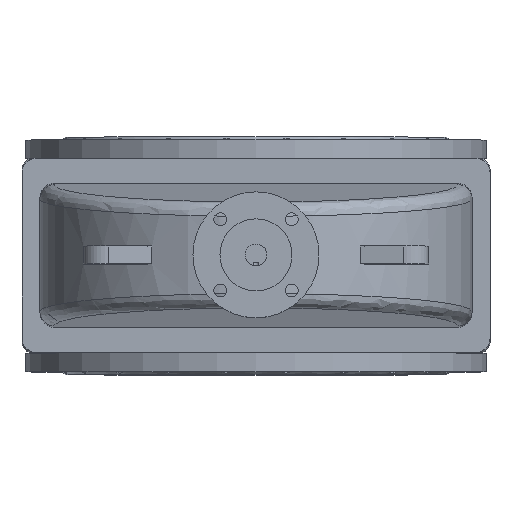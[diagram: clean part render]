
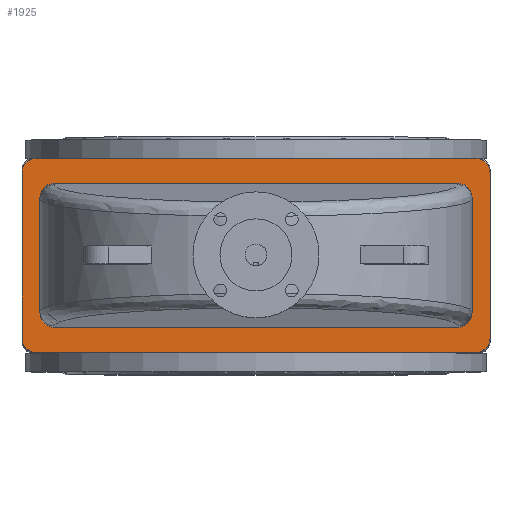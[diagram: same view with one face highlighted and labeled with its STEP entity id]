
A CAD part, top view. The second image highlights one B-rep face of the part: STEP entity #1925.
In plain terms, the highlighted planar face has unit normal (0, 0, 1).
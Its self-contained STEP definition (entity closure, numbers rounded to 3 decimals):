
#1925=ADVANCED_FACE('',(#5581,#5583),#5585,.T.);
#5581=FACE_BOUND('',#5582,.T.);
#5582=EDGE_LOOP('',(#7781,#7782,#7783,#7784,#7785,#7786,#7787,#7788));
#5583=FACE_BOUND('',#5584,.T.);
#5584=EDGE_LOOP('',(#7789,#7790,#7791,#7792,#7793,#7794,#7795,#7796));
#5585=PLANE('',#5586);
#5586=AXIS2_PLACEMENT_3D('',#5587,#5588,#5589);
#5587=CARTESIAN_POINT('',(0.,0.,516.));
#5588=DIRECTION('',(0.,-0.,1.));
#5589=DIRECTION('',(0.,1.,0.));
#7781=ORIENTED_EDGE('',*,*,#8561,.F.);
#7782=ORIENTED_EDGE('',*,*,#8574,.T.);
#7783=ORIENTED_EDGE('',*,*,#8573,.F.);
#7784=ORIENTED_EDGE('',*,*,#8571,.T.);
#7785=ORIENTED_EDGE('',*,*,#8569,.F.);
#7786=ORIENTED_EDGE('',*,*,#8567,.T.);
#7787=ORIENTED_EDGE('',*,*,#8565,.F.);
#7788=ORIENTED_EDGE('',*,*,#8562,.T.);
#7789=ORIENTED_EDGE('',*,*,#8575,.F.);
#7790=ORIENTED_EDGE('',*,*,#8576,.F.);
#7791=ORIENTED_EDGE('',*,*,#8577,.F.);
#7792=ORIENTED_EDGE('',*,*,#8578,.F.);
#7793=ORIENTED_EDGE('',*,*,#8579,.F.);
#7794=ORIENTED_EDGE('',*,*,#8580,.F.);
#7795=ORIENTED_EDGE('',*,*,#8581,.F.);
#7796=ORIENTED_EDGE('',*,*,#8582,.F.);
#8561=EDGE_CURVE('',#9679,#9677,#9681,.F.);
#8562=EDGE_CURVE('',#9682,#9677,#9683,.T.);
#8565=EDGE_CURVE('',#9682,#9685,#9687,.F.);
#8567=EDGE_CURVE('',#9688,#9685,#9690,.T.);
#8569=EDGE_CURVE('',#9688,#9691,#9693,.F.);
#8571=EDGE_CURVE('',#9694,#9691,#9696,.T.);
#8573=EDGE_CURVE('',#9694,#9697,#9699,.F.);
#8574=EDGE_CURVE('',#9679,#9697,#9700,.T.);
#8575=EDGE_CURVE('',#9701,#9702,#9703,.F.);
#8576=EDGE_CURVE('',#9704,#9701,#9705,.T.);
#8577=EDGE_CURVE('',#9706,#9704,#9707,.T.);
#8578=EDGE_CURVE('',#9708,#9706,#9709,.T.);
#8579=EDGE_CURVE('',#9710,#9708,#9711,.F.);
#8580=EDGE_CURVE('',#9712,#9710,#9713,.T.);
#8581=EDGE_CURVE('',#9714,#9712,#9715,.T.);
#8582=EDGE_CURVE('',#9702,#9714,#9716,.T.);
#9677=VERTEX_POINT('',#15903);
#9679=VERTEX_POINT('',#15907);
#9681=CIRCLE('',#15911,20.);
#9682=VERTEX_POINT('',#15915);
#9683=LINE('',#15916,#15917);
#9685=VERTEX_POINT('',#15922);
#9687=CIRCLE('',#15926,20.);
#9688=VERTEX_POINT('',#15930);
#9690=LINE('',#15934,#15935);
#9691=VERTEX_POINT('',#15937);
#9693=CIRCLE('',#15941,20.);
#9694=VERTEX_POINT('',#15945);
#9696=LINE('',#15949,#15950);
#9697=VERTEX_POINT('',#15952);
#9699=CIRCLE('',#15956,20.);
#9700=LINE('',#15960,#15961);
#9701=VERTEX_POINT('',#15963);
#9702=VERTEX_POINT('',#15964);
#9703=(BOUNDED_CURVE()B_SPLINE_CURVE(3,
(#15965,#15966,#15967,#15968),
.UNSPECIFIED.,.F.,.F.)B_SPLINE_CURVE_WITH_KNOTS((4,4),
(0.,1.),
.UNSPECIFIED.)CURVE()GEOMETRIC_REPRESENTATION_ITEM()RATIONAL_B_SPLINE_CURVE((1.,
0.805,0.805,1.))REPRESENTATION_ITEM(''));
#9704=VERTEX_POINT('',#15969);
#9705=LINE('',#15970,#15971);
#9706=VERTEX_POINT('',#15973);
#9707=(BOUNDED_CURVE()B_SPLINE_CURVE(3,
(#15974,#15975,#15976,#15977),
.UNSPECIFIED.,.F.,.F.)B_SPLINE_CURVE_WITH_KNOTS((4,4),
(0.,1.),
.UNSPECIFIED.)CURVE()GEOMETRIC_REPRESENTATION_ITEM()RATIONAL_B_SPLINE_CURVE((1.,
0.805,0.805,1.))REPRESENTATION_ITEM(''));
#9708=VERTEX_POINT('',#15978);
#9709=LINE('',#15979,#15980);
#9710=VERTEX_POINT('',#15982);
#9711=(BOUNDED_CURVE()B_SPLINE_CURVE(3,
(#15983,#15984,#15985,#15986),
.UNSPECIFIED.,.F.,.F.)B_SPLINE_CURVE_WITH_KNOTS((4,4),
(0.,1.),
.UNSPECIFIED.)CURVE()GEOMETRIC_REPRESENTATION_ITEM()RATIONAL_B_SPLINE_CURVE((1.,
0.805,0.805,1.))REPRESENTATION_ITEM(''));
#9712=VERTEX_POINT('',#15987);
#9713=LINE('',#15988,#15989);
#9714=VERTEX_POINT('',#15991);
#9715=(BOUNDED_CURVE()B_SPLINE_CURVE(3,
(#15992,#15993,#15994,#15995),
.UNSPECIFIED.,.F.,.F.)B_SPLINE_CURVE_WITH_KNOTS((4,4),
(0.,1.),
.UNSPECIFIED.)CURVE()GEOMETRIC_REPRESENTATION_ITEM()RATIONAL_B_SPLINE_CURVE((1.,
0.805,0.805,1.))REPRESENTATION_ITEM(''));
#9716=LINE('',#15996,#15997);
#15903=CARTESIAN_POINT('',(-325.,-115.,516.));
#15907=CARTESIAN_POINT('',(-305.,-135.,516.));
#15911=AXIS2_PLACEMENT_3D('',#15912,#15913,#15914);
#15912=CARTESIAN_POINT('',(-305.,-115.,516.));
#15913=DIRECTION('',(0.,-0.,1.));
#15914=DIRECTION('',(-1.,0.,0.));
#15915=CARTESIAN_POINT('',(-325.,115.,516.));
#15916=CARTESIAN_POINT('',(-325.,115.,516.));
#15917=VECTOR('',#15918,1.);
#15918=DIRECTION('',(0.,-1.,0.));
#15922=CARTESIAN_POINT('',(-305.,135.,516.));
#15926=AXIS2_PLACEMENT_3D('',#15927,#15928,#15929);
#15927=CARTESIAN_POINT('',(-305.,115.,516.));
#15928=DIRECTION('',(0.,-0.,1.));
#15929=DIRECTION('',(0.,1.,0.));
#15930=CARTESIAN_POINT('',(305.,135.,516.));
#15934=CARTESIAN_POINT('',(305.,135.,516.));
#15935=VECTOR('',#15936,1.);
#15936=DIRECTION('',(-1.,0.,0.));
#15937=CARTESIAN_POINT('',(325.,115.,516.));
#15941=AXIS2_PLACEMENT_3D('',#15942,#15943,#15944);
#15942=CARTESIAN_POINT('',(305.,115.,516.));
#15943=DIRECTION('',(0.,-0.,1.));
#15944=DIRECTION('',(1.,0.,0.));
#15945=CARTESIAN_POINT('',(325.,-115.,516.));
#15949=CARTESIAN_POINT('',(325.,-115.,516.));
#15950=VECTOR('',#15951,1.);
#15951=DIRECTION('',(0.,1.,0.));
#15952=CARTESIAN_POINT('',(305.,-135.,516.));
#15956=AXIS2_PLACEMENT_3D('',#15957,#15958,#15959);
#15957=CARTESIAN_POINT('',(305.,-115.,516.));
#15958=DIRECTION('',(0.,-0.,1.));
#15959=DIRECTION('',(0.,-1.,0.));
#15960=CARTESIAN_POINT('',(-305.,-135.,516.));
#15961=VECTOR('',#15962,1.);
#15962=DIRECTION('',(1.,0.,0.));
#15963=CARTESIAN_POINT('',(280.,-100.,516.));
#15964=CARTESIAN_POINT('',(300.,-79.924,516.));
#15965=CARTESIAN_POINT('',(300.,-79.924,516.));
#15966=CARTESIAN_POINT('',(300.,-91.684,516.));
#15967=CARTESIAN_POINT('',(291.716,-100.,516.));
#15968=CARTESIAN_POINT('',(280.,-100.,516.));
#15969=CARTESIAN_POINT('',(-280.,-100.,516.));
#15970=CARTESIAN_POINT('',(-280.,-100.,516.));
#15971=VECTOR('',#15972,1.);
#15972=DIRECTION('',(1.,0.,0.));
#15973=CARTESIAN_POINT('',(-300.,-79.924,516.));
#15974=CARTESIAN_POINT('',(-300.,-79.924,516.));
#15975=CARTESIAN_POINT('',(-300.,-91.684,516.));
#15976=CARTESIAN_POINT('',(-291.716,-100.,516.));
#15977=CARTESIAN_POINT('',(-280.,-100.,516.));
#15978=CARTESIAN_POINT('',(-300.,79.924,516.));
#15979=CARTESIAN_POINT('',(-300.,79.924,516.));
#15980=VECTOR('',#15981,1.);
#15981=DIRECTION('',(0.,-1.,0.));
#15982=CARTESIAN_POINT('',(-280.,100.,516.));
#15983=CARTESIAN_POINT('',(-300.,79.924,516.));
#15984=CARTESIAN_POINT('',(-300.,91.684,516.));
#15985=CARTESIAN_POINT('',(-291.716,100.,516.));
#15986=CARTESIAN_POINT('',(-280.,100.,516.));
#15987=CARTESIAN_POINT('',(280.,100.,516.));
#15988=CARTESIAN_POINT('',(280.,100.,516.));
#15989=VECTOR('',#15990,1.);
#15990=DIRECTION('',(-1.,0.,0.));
#15991=CARTESIAN_POINT('',(300.,79.924,516.));
#15992=CARTESIAN_POINT('',(300.,79.924,516.));
#15993=CARTESIAN_POINT('',(300.,91.684,516.));
#15994=CARTESIAN_POINT('',(291.716,100.,516.));
#15995=CARTESIAN_POINT('',(280.,100.,516.));
#15996=CARTESIAN_POINT('',(300.,-79.924,516.));
#15997=VECTOR('',#15998,1.);
#15998=DIRECTION('',(0.,1.,0.));
